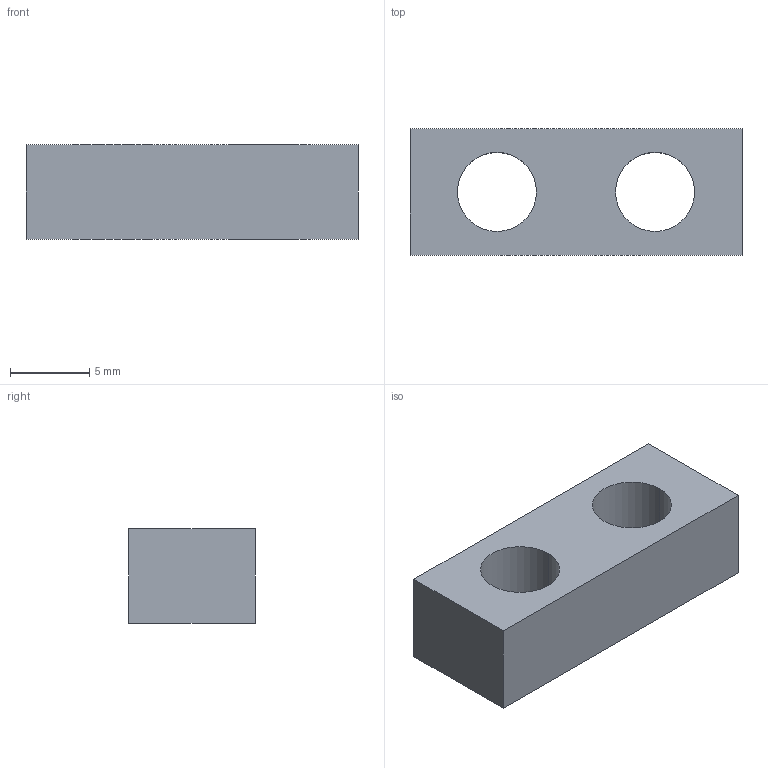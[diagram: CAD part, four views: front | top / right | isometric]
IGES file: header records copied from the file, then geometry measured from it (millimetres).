
Start section: START RECORD GO HERE.
Global section: file name: 2.igs; native system: DASSAULT SYSTEMES CATIA V5 R21 - www.3ds.com; preprocessor: CATIA Version 5 Release 21 ; author: E___; organization: MSI; date: 20160804.133233; units: millimetre
Bounding box: 21 x 8 x 6 mm (x, y, z)
Surface area: 794 mm2 (no closed solid volume)
Topology: 0 solids, 0 shells, 10 faces, 48 edges, 48 vertices
Faces by surface type: plane 6, revolution 4
